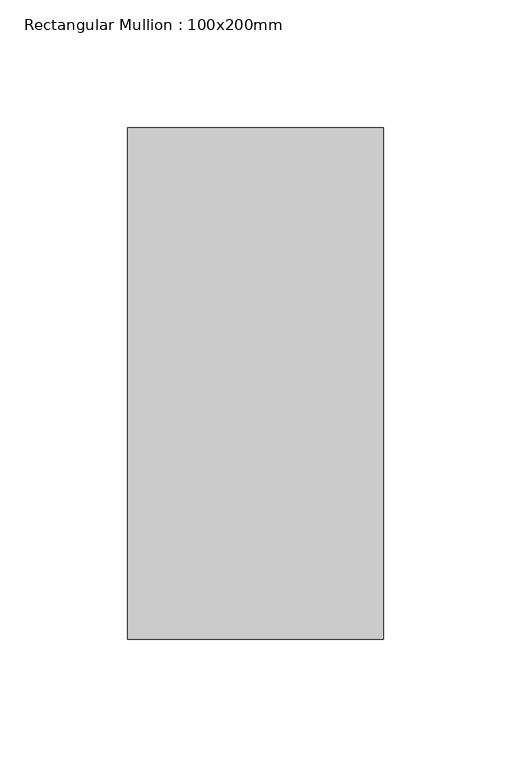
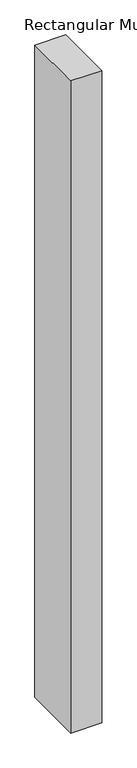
"""IFC4 building model written with IfcOpenShell, lengths in millimetres: member geometry, Rectangular Mullion : 100x200mm."""

from ifc_helpers import new_model, si_unit, frame, origin, place, context, project, spatial, polyline, outline, extrude, source, transform, mapped, element, save


def rectangular_mullion_100x200mm_7db08a23(model_context):
    return source(origin(), model_context, "Body", "SweptSolid", [
        extrude(outline(polyline([(0.0, 100.0), (0.0, -100.0), (-100.0, -100.0), (-100.0, 100.0), (0.0, 100.0)])), frame((0.0, 0.0, -2220.0015279), z_axis=(0.0, 0.0, 1.0), x_axis=(1.0, 0.0, 0.0)), (0.0, 0.0, 1.0), 2220.0015279),
    ])


if __name__ == "__main__":
    model = new_model("IFC4")
    model_context = context("Model", 3, world=origin())
    ifc_project = project(units=[si_unit("LENGTHUNIT", "METRE", prefix="MILLI")], contexts=[model_context])
    site = spatial("IfcSite", under=ifc_project)
    building = spatial("IfcBuilding", under=site)
    placement = place(None, origin())
    rectangular_mullion_100x200mm_shape = rectangular_mullion_100x200mm_7db08a23(model_context)
    element("IfcMember", 1, ObjectType="Rectangular Mullion : 100x200mm", at=placement, inside=building, context=model_context, shape_type="MappedRepresentation", body=[
        mapped(rectangular_mullion_100x200mm_shape, transform((0.0, 0.0, 0.0), x_axis=(1.0, 0.0, 0.0), y_axis=(0.0, 1.0, 0.0), z_axis=(0.0, 0.0, 1.0))),
    ])
    save(model, "model.ifc")
